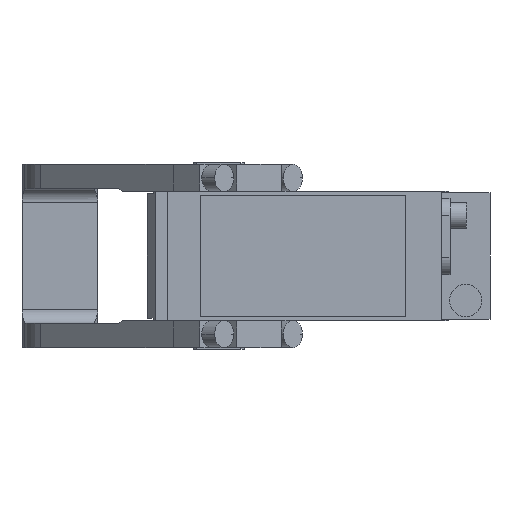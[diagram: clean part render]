
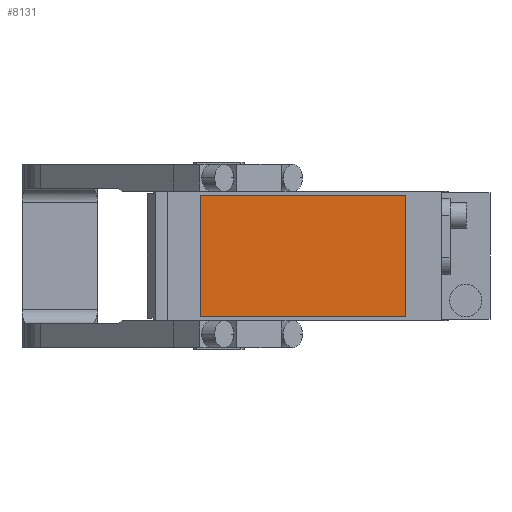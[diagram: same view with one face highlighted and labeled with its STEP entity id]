
A CAD part, front view. The second image highlights one B-rep face of the part: STEP entity #8131.
In plain terms, the highlighted planar face has unit normal (0, -1, 0).
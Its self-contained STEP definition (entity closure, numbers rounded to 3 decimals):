
#292 = EDGE_CURVE ( 'NONE', #12314, #7828, #2452, .T. ) ;
#557 = DIRECTION ( 'NONE',  ( 1., 0., 0. ) ) ;
#1087 = ORIENTED_EDGE ( 'NONE', *, *, #6392, .T. ) ;
#1205 = FACE_OUTER_BOUND ( 'NONE', #1298, .T. ) ;
#1298 = EDGE_LOOP ( 'NONE', ( #1087, #2943, #9961, #4329 ) ) ;
#1709 = VERTEX_POINT ( 'NONE', #2520 ) ;
#2147 = DIRECTION ( 'NONE',  ( 0., -1., 0. ) ) ;
#2335 = LINE ( 'NONE', #5698, #6125 ) ;
#2452 = LINE ( 'NONE', #10897, #10040 ) ;
#2520 = CARTESIAN_POINT ( 'NONE',  ( -7., -280.5, -22.5 ) ) ;
#2943 = ORIENTED_EDGE ( 'NONE', *, *, #3288, .T. ) ;
#3241 = CARTESIAN_POINT ( 'NONE',  ( 0., -280.5, 0. ) ) ;
#3288 = EDGE_CURVE ( 'NONE', #1709, #7041, #12303, .T. ) ;
#3380 = EDGE_CURVE ( 'NONE', #7041, #12314, #8269, .T. ) ;
#3956 = CARTESIAN_POINT ( 'NONE',  ( 69., -280.5, 22.5 ) ) ;
#4329 = ORIENTED_EDGE ( 'NONE', *, *, #292, .T. ) ;
#4636 = DIRECTION ( 'NONE',  ( 0., 0., -1. ) ) ;
#5587 = VECTOR ( 'NONE', #10335, 1000. ) ;
#5698 = CARTESIAN_POINT ( 'NONE',  ( -7., -280.5, 22.5 ) ) ;
#6125 = VECTOR ( 'NONE', #4636, 1000. ) ;
#6392 = EDGE_CURVE ( 'NONE', #7828, #1709, #2335, .T. ) ;
#7041 = VERTEX_POINT ( 'NONE', #10513 ) ;
#7828 = VERTEX_POINT ( 'NONE', #13254 ) ;
#8131 = ADVANCED_FACE ( 'NONE', ( #1205 ), #11790, .T. ) ;
#8269 = LINE ( 'NONE', #12366, #5587 ) ;
#9125 = CARTESIAN_POINT ( 'NONE',  ( -7., -280.5, -22.5 ) ) ;
#9961 = ORIENTED_EDGE ( 'NONE', *, *, #3380, .T. ) ;
#9971 = DIRECTION ( 'NONE',  ( -1., 0., 0. ) ) ;
#10040 = VECTOR ( 'NONE', #9971, 1000. ) ;
#10335 = DIRECTION ( 'NONE',  ( 0., 0., 1. ) ) ;
#10513 = CARTESIAN_POINT ( 'NONE',  ( 69., -280.5, -22.5 ) ) ;
#10897 = CARTESIAN_POINT ( 'NONE',  ( -7., -280.5, 22.5 ) ) ;
#11048 = VECTOR ( 'NONE', #557, 1000. ) ;
#11503 = AXIS2_PLACEMENT_3D ( 'NONE', #3241, #2147, #13033 ) ;
#11790 = PLANE ( 'NONE',  #11503 ) ;
#12303 = LINE ( 'NONE', #9125, #11048 ) ;
#12314 = VERTEX_POINT ( 'NONE', #3956 ) ;
#12366 = CARTESIAN_POINT ( 'NONE',  ( 69., -280.5, 22.5 ) ) ;
#13033 = DIRECTION ( 'NONE',  ( 0., 0., -1. ) ) ;
#13254 = CARTESIAN_POINT ( 'NONE',  ( -7., -280.5, 22.5 ) ) ;
